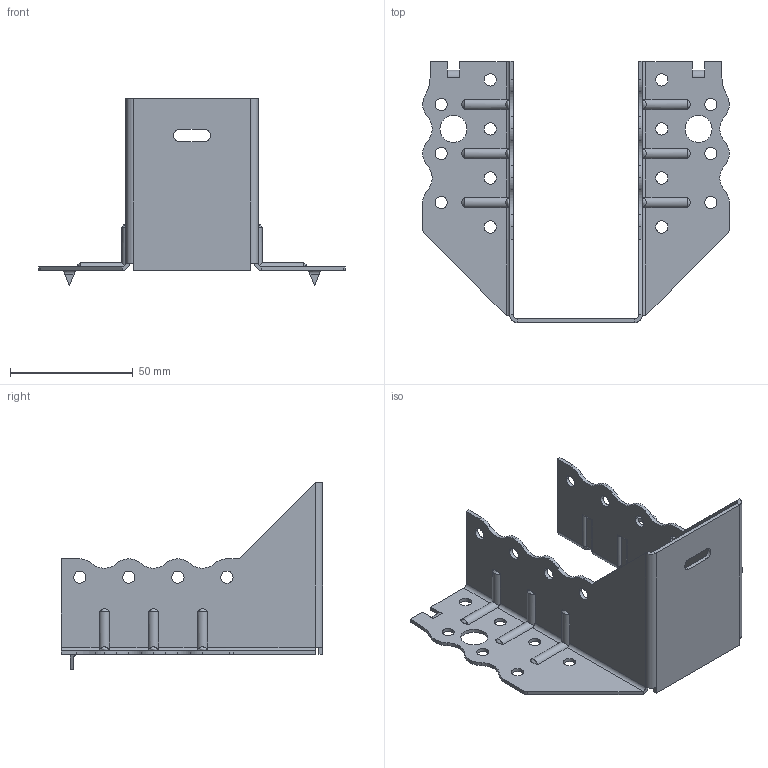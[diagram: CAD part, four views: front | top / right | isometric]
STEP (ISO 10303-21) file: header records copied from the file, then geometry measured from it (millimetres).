
FILE_DESCRIPTION (( 'STEP AP203' ), '1' );
FILE_NAME ('30603TOP.STEP', '2021-04-06T17:54:34', ( '' ), ( '' ), 'SwSTEP 2.0', 'SolidWorks 2013', '' );
FILE_SCHEMA (( 'CONFIG_CONTROL_DESIGN' ));
Length unit declared in the file: millimetre
Products named in the file (1): 30603TOP
Bounding box: 125 x 106.5 x 76 mm (x, y, z)
Volume: 26705.1 mm3; surface area: 37841.2 mm2
Topology: 1 solids, 1 shells, 265 faces, 697 edges, 434 vertices
Faces by surface type: cylinder 166, plane 75, torus 12, bspline 12
Entity records: 9676 total; most frequent: CARTESIAN_POINT 3023, ORIENTED_EDGE 1394, DIRECTION 1363, EDGE_CURVE 697, AXIS2_PLACEMENT_3D 498, VERTEX_POINT 434, VECTOR 367, LINE 367
